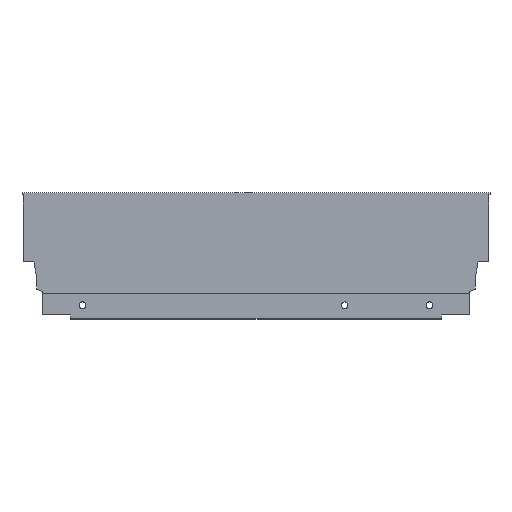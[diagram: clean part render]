
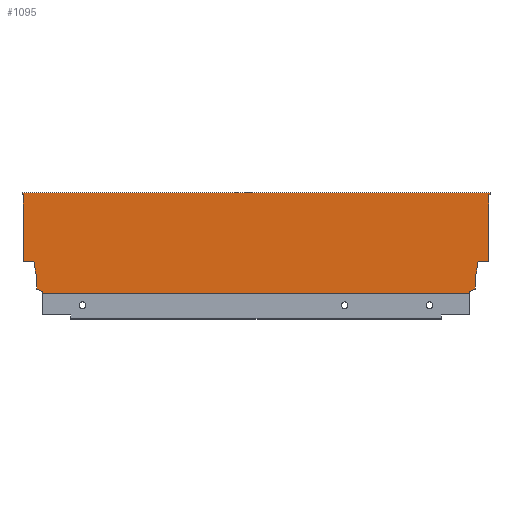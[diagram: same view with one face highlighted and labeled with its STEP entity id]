
A CAD part, top view. The second image highlights one B-rep face of the part: STEP entity #1095.
In plain terms, the highlighted planar face has unit normal (0, 0, 1).
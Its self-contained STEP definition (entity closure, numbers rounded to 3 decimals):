
#158 = ORIENTED_EDGE ( 'NONE', *, *, #1325, .T. ) ;
#159 = ORIENTED_EDGE ( 'NONE', *, *, #1330, .T. ) ;
#161 = ORIENTED_EDGE ( 'NONE', *, *, #1329, .F. ) ;
#162 = ORIENTED_EDGE ( 'NONE', *, *, #1328, .F. ) ;
#179 = ORIENTED_EDGE ( 'NONE', *, *, #1324, .F. ) ;
#180 = ORIENTED_EDGE ( 'NONE', *, *, #1331, .F. ) ;
#181 = ORIENTED_EDGE ( 'NONE', *, *, #1332, .F. ) ;
#182 = ORIENTED_EDGE ( 'NONE', *, *, #1342, .F. ) ;
#185 = ORIENTED_EDGE ( 'NONE', *, *, #1338, .F. ) ;
#186 = ORIENTED_EDGE ( 'NONE', *, *, #1306, .F. ) ;
#187 = ORIENTED_EDGE ( 'NONE', *, *, #1340, .F. ) ;
#188 = ORIENTED_EDGE ( 'NONE', *, *, #1337, .F. ) ;
#189 = ORIENTED_EDGE ( 'NONE', *, *, #1334, .F. ) ;
#190 = ORIENTED_EDGE ( 'NONE', *, *, #1336, .F. ) ;
#191 = ORIENTED_EDGE ( 'NONE', *, *, #1333, .F. ) ;
#192 = ORIENTED_EDGE ( 'NONE', *, *, #1323, .T. ) ;
#193 = ORIENTED_EDGE ( 'NONE', *, *, #1335, .F. ) ;
#222 = EDGE_LOOP ( 'NONE', ( #161, #162, #158, #159, #241, #179, #180, #181, #191, #192, #193, #188, #189, #190, #185, #186, #187, #182 ) ) ;
#241 = ORIENTED_EDGE ( 'NONE', *, *, #1327, .F. ) ;
#261 = FACE_OUTER_BOUND ( 'NONE', #222, .T. ) ;
#477 = CARTESIAN_POINT ( 'NONE',  ( 0., 66.5, 7.5 ) ) ;
#480 = CARTESIAN_POINT ( 'NONE',  ( -306.1, 2.64, 7.5 ) ) ;
#485 = CARTESIAN_POINT ( 'NONE',  ( -13.004, 1.146, 7.5 ) ) ;
#487 = CARTESIAN_POINT ( 'NONE',  ( -7.06, 21.2, 7.5 ) ) ;
#488 = CARTESIAN_POINT ( 'NONE',  ( -301.996, 1.146, 7.5 ) ) ;
#509 = CARTESIAN_POINT ( 'NONE',  ( -315., 21.2, 7.5 ) ) ;
#532 = CARTESIAN_POINT ( 'NONE',  ( 1., 66.5, 7.5 ) ) ;
#537 = CARTESIAN_POINT ( 'NONE',  ( -316., 68., 7.5 ) ) ;
#571 = VERTEX_POINT ( 'NONE', #537 ) ;
#576 = VERTEX_POINT ( 'NONE', #532 ) ;
#599 = VERTEX_POINT ( 'NONE', #509 ) ;
#620 = VERTEX_POINT ( 'NONE', #488 ) ;
#621 = VERTEX_POINT ( 'NONE', #487 ) ;
#623 = VERTEX_POINT ( 'NONE', #485 ) ;
#628 = VERTEX_POINT ( 'NONE', #480 ) ;
#631 = VERTEX_POINT ( 'NONE', #477 ) ;
#633 = VERTEX_POINT ( 'NONE', #660 ) ;
#634 = VERTEX_POINT ( 'NONE', #665 ) ;
#636 = VERTEX_POINT ( 'NONE', #661 ) ;
#641 = VERTEX_POINT ( 'NONE', #669 ) ;
#642 = VERTEX_POINT ( 'NONE', #670 ) ;
#643 = VERTEX_POINT ( 'NONE', #671 ) ;
#646 = VERTEX_POINT ( 'NONE', #674 ) ;
#647 = VERTEX_POINT ( 'NONE', #675 ) ;
#652 = VERTEX_POINT ( 'NONE', #680 ) ;
#654 = VERTEX_POINT ( 'NONE', #682 ) ;
#660 = CARTESIAN_POINT ( 'NONE',  ( 0., 21.2, 7.5 ) ) ;
#661 = CARTESIAN_POINT ( 'NONE',  ( -316., 66.5, 7.5 ) ) ;
#665 = CARTESIAN_POINT ( 'NONE',  ( 1., 68., 7.5 ) ) ;
#669 = CARTESIAN_POINT ( 'NONE',  ( -8.9, 2.64, 7.5 ) ) ;
#670 = CARTESIAN_POINT ( 'NONE',  ( -301.996, 0., 7.5 ) ) ;
#671 = CARTESIAN_POINT ( 'NONE',  ( -315., 66.5, 7.5 ) ) ;
#674 = CARTESIAN_POINT ( 'NONE',  ( -307.94, 21.2, 7.5 ) ) ;
#675 = CARTESIAN_POINT ( 'NONE',  ( -8.9, 10.765, 7.5 ) ) ;
#680 = CARTESIAN_POINT ( 'NONE',  ( -13.004, 0., 7.5 ) ) ;
#682 = CARTESIAN_POINT ( 'NONE',  ( -306.1, 10.765, 7.5 ) ) ;
#688 = PLANE ( 'NONE',  #1229 ) ;
#694 = CARTESIAN_POINT ( 'NONE',  ( -315., 0., 7.5 ) ) ;
#699 = DIRECTION ( 'NONE',  ( 0., 0., 1. ) ) ;
#700 = DIRECTION ( 'NONE',  ( 1., 0., 0. ) ) ;
#999 = LINE ( 'NONE', #1416, #1000 ) ;
#1000 = VECTOR ( 'NONE', #1417, 1000. ) ;
#1022 = LINE ( 'NONE', #1453, #1028 ) ;
#1027 = LINE ( 'NONE', #1455, #1044 ) ;
#1028 = VECTOR ( 'NONE', #1454, 1000. ) ;
#1030 = LINE ( 'NONE', #1448, #1032 ) ;
#1032 = VECTOR ( 'NONE', #1456, 1000. ) ;
#1034 = LINE ( 'NONE', #1457, #1035 ) ;
#1035 = VECTOR ( 'NONE', #1458, 1000. ) ;
#1038 = LINE ( 'NONE', #1461, #1039 ) ;
#1039 = VECTOR ( 'NONE', #1462, 1000. ) ;
#1040 = LINE ( 'NONE', #1463, #1041 ) ;
#1041 = VECTOR ( 'NONE', #1464, 1000. ) ;
#1042 = LINE ( 'NONE', #1465, #1043 ) ;
#1043 = VECTOR ( 'NONE', #1466, 1000. ) ;
#1044 = VECTOR ( 'NONE', #1468, 1000. ) ;
#1045 = LINE ( 'NONE', #1469, #1046 ) ;
#1046 = VECTOR ( 'NONE', #1470, 1000. ) ;
#1047 = LINE ( 'NONE', #1471, #1048 ) ;
#1048 = VECTOR ( 'NONE', #1472, 1000. ) ;
#1049 = LINE ( 'NONE', #1473, #1050 ) ;
#1050 = VECTOR ( 'NONE', #1474, 1000. ) ;
#1051 = LINE ( 'NONE', #1475, #1052 ) ;
#1052 = VECTOR ( 'NONE', #1476, 1000. ) ;
#1053 = LINE ( 'NONE', #1477, #1054 ) ;
#1054 = VECTOR ( 'NONE', #1478, 1000. ) ;
#1055 = LINE ( 'NONE', #1479, #1056 ) ;
#1056 = VECTOR ( 'NONE', #1480, 1000. ) ;
#1057 = LINE ( 'NONE', #1481, #1058 ) ;
#1058 = VECTOR ( 'NONE', #1482, 1000. ) ;
#1059 = LINE ( 'NONE', #1483, #1060 ) ;
#1060 = VECTOR ( 'NONE', #1484, 1000. ) ;
#1063 = LINE ( 'NONE', #1487, #1064 ) ;
#1064 = VECTOR ( 'NONE', #1488, 1000. ) ;
#1067 = LINE ( 'NONE', #1491, #1068 ) ;
#1068 = VECTOR ( 'NONE', #1492, 1000. ) ;
#1095 = ADVANCED_FACE ( 'NONE', ( #261 ), #688, .T. ) ;
#1229 = AXIS2_PLACEMENT_3D ( 'NONE', #694, #699, #700 ) ;
#1306 = EDGE_CURVE ( 'NONE', #631, #633, #999, .T. ) ;
#1323 = EDGE_CURVE ( 'NONE', #642, #652, #1022, .T. ) ;
#1324 = EDGE_CURVE ( 'NONE', #654, #646, #1030, .T. ) ;
#1325 = EDGE_CURVE ( 'NONE', #636, #643, #1034, .T. ) ;
#1327 = EDGE_CURVE ( 'NONE', #646, #599, #1038, .T. ) ;
#1328 = EDGE_CURVE ( 'NONE', #636, #571, #1040, .T. ) ;
#1329 = EDGE_CURVE ( 'NONE', #571, #634, #1042, .T. ) ;
#1330 = EDGE_CURVE ( 'NONE', #643, #599, #1027, .T. ) ;
#1331 = EDGE_CURVE ( 'NONE', #628, #654, #1045, .T. ) ;
#1332 = EDGE_CURVE ( 'NONE', #620, #628, #1047, .T. ) ;
#1333 = EDGE_CURVE ( 'NONE', #642, #620, #1049, .T. ) ;
#1334 = EDGE_CURVE ( 'NONE', #647, #641, #1051, .T. ) ;
#1335 = EDGE_CURVE ( 'NONE', #623, #652, #1053, .T. ) ;
#1336 = EDGE_CURVE ( 'NONE', #621, #647, #1055, .T. ) ;
#1337 = EDGE_CURVE ( 'NONE', #641, #623, #1057, .T. ) ;
#1338 = EDGE_CURVE ( 'NONE', #633, #621, #1059, .T. ) ;
#1340 = EDGE_CURVE ( 'NONE', #576, #631, #1063, .T. ) ;
#1342 = EDGE_CURVE ( 'NONE', #634, #576, #1067, .T. ) ;
#1416 = CARTESIAN_POINT ( 'NONE',  ( 0., 0., 7.5 ) ) ;
#1417 = DIRECTION ( 'NONE',  ( 0., -1., 0. ) ) ;
#1448 = CARTESIAN_POINT ( 'NONE',  ( -307.94, 21.2, 7.5 ) ) ;
#1453 = CARTESIAN_POINT ( 'NONE',  ( -315., 0., 7.5 ) ) ;
#1454 = DIRECTION ( 'NONE',  ( 1., 0., 0. ) ) ;
#1455 = CARTESIAN_POINT ( 'NONE',  ( -315., 0., 7.5 ) ) ;
#1456 = DIRECTION ( 'NONE',  ( -0.174, 0.985, 0. ) ) ;
#1457 = CARTESIAN_POINT ( 'NONE',  ( -316., 66.5, 7.5 ) ) ;
#1458 = DIRECTION ( 'NONE',  ( 1., 0., 0. ) ) ;
#1461 = CARTESIAN_POINT ( 'NONE',  ( -320., 21.2, 7.5 ) ) ;
#1462 = DIRECTION ( 'NONE',  ( -1., 0., 0. ) ) ;
#1463 = CARTESIAN_POINT ( 'NONE',  ( -316., 66.5, 7.5 ) ) ;
#1464 = DIRECTION ( 'NONE',  ( 0., 1., 0. ) ) ;
#1465 = CARTESIAN_POINT ( 'NONE',  ( -315., 68., 7.5 ) ) ;
#1466 = DIRECTION ( 'NONE',  ( 1., 0., 0. ) ) ;
#1468 = DIRECTION ( 'NONE',  ( 0., -1., 0. ) ) ;
#1469 = CARTESIAN_POINT ( 'NONE',  ( -306.1, 10.765, 7.5 ) ) ;
#1470 = DIRECTION ( 'NONE',  ( 0., 1., 0. ) ) ;
#1471 = CARTESIAN_POINT ( 'NONE',  ( -306.1, 2.64, 7.5 ) ) ;
#1472 = DIRECTION ( 'NONE',  ( -0.94, 0.342, 0. ) ) ;
#1473 = CARTESIAN_POINT ( 'NONE',  ( -301.996, 1.146, 7.5 ) ) ;
#1474 = DIRECTION ( 'NONE',  ( 0., 1., 0. ) ) ;
#1475 = CARTESIAN_POINT ( 'NONE',  ( -8.9, 10.765, 7.5 ) ) ;
#1476 = DIRECTION ( 'NONE',  ( 0., -1., 0. ) ) ;
#1477 = CARTESIAN_POINT ( 'NONE',  ( -13.004, 1.146, 7.5 ) ) ;
#1478 = DIRECTION ( 'NONE',  ( 0., -1., 0. ) ) ;
#1479 = CARTESIAN_POINT ( 'NONE',  ( -7.06, 21.2, 7.5 ) ) ;
#1480 = DIRECTION ( 'NONE',  ( -0.174, -0.985, 0. ) ) ;
#1481 = CARTESIAN_POINT ( 'NONE',  ( -8.9, 2.64, 7.5 ) ) ;
#1482 = DIRECTION ( 'NONE',  ( -0.94, -0.342, 0. ) ) ;
#1483 = CARTESIAN_POINT ( 'NONE',  ( 0., 21.2, 7.5 ) ) ;
#1484 = DIRECTION ( 'NONE',  ( -1., 0., 0. ) ) ;
#1487 = CARTESIAN_POINT ( 'NONE',  ( 1., 66.5, 7.5 ) ) ;
#1488 = DIRECTION ( 'NONE',  ( -1., 0., 0. ) ) ;
#1491 = CARTESIAN_POINT ( 'NONE',  ( 1., 68., 7.5 ) ) ;
#1492 = DIRECTION ( 'NONE',  ( 0., -1., 0. ) ) ;
